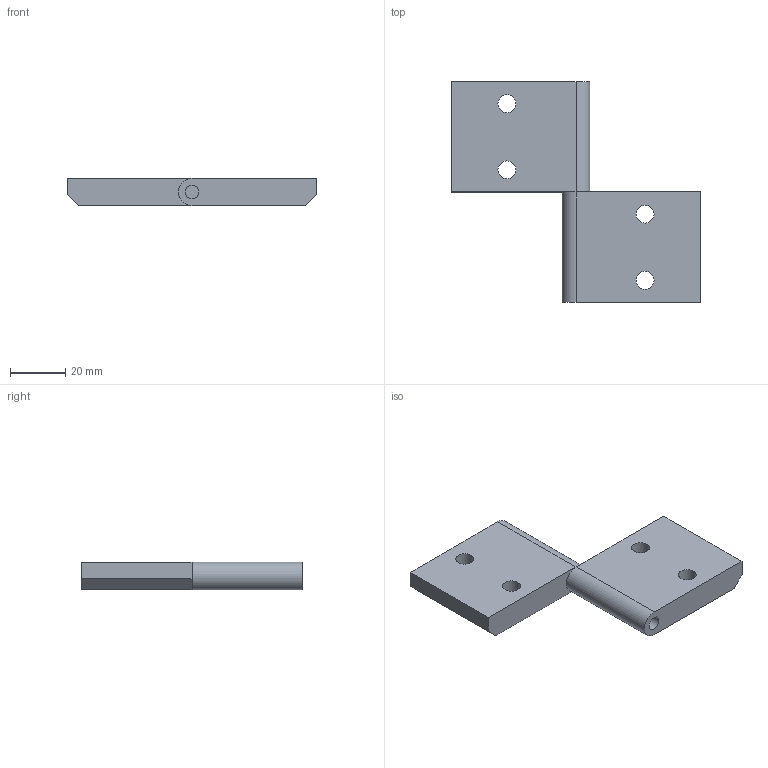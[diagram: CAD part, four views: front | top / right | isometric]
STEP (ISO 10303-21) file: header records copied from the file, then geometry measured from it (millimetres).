
FILE_DESCRIPTION((''),'2;1');
FILE_NAME('CEP4545S_ASM','2002-12-27T',('Lipro doo'),('Lipro d.o.o.'),'PRO/ENGINEER BY PARAMETRIC TECHNOLOGY CORPORATION, 2001150','PRO/ENGINEER BY PARAMETRIC TECHNOLOGY CORPORATION, 2001150','');
FILE_SCHEMA(('CONFIG_CONTROL_DESIGN'));
Length unit declared in the file: millimetre
Products named in the file (3): OS_FI5X60; CEP45_1; CEP4545S_ASM
Assembly tree (3 placements, depth 2):
  CEP4545S_ASM
    OS_FI5X60
    CEP45_1  x2
Bounding box: 90 x 80 x 10 mm (x, y, z)
Volume: 36300.9 mm3; surface area: 13608.8 mm2
Topology: 3 solids, 3 shells, 38 faces, 88 edges, 56 vertices
Faces by surface type: cylinder 16, plane 14, cone 8
Entity records: 704 total; most frequent: DIRECTION 123, CARTESIAN_POINT 104, ORIENTED_EDGE 94, AXIS2_PLACEMENT_3D 49, EDGE_CURVE 47, VERTEX_POINT 30, EDGE_LOOP 27, VECTOR 25
